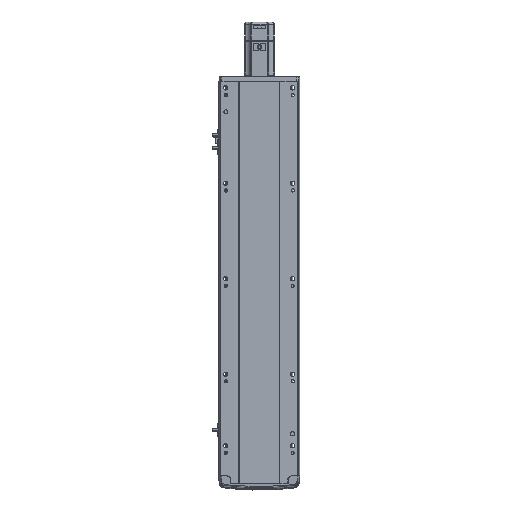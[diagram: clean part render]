
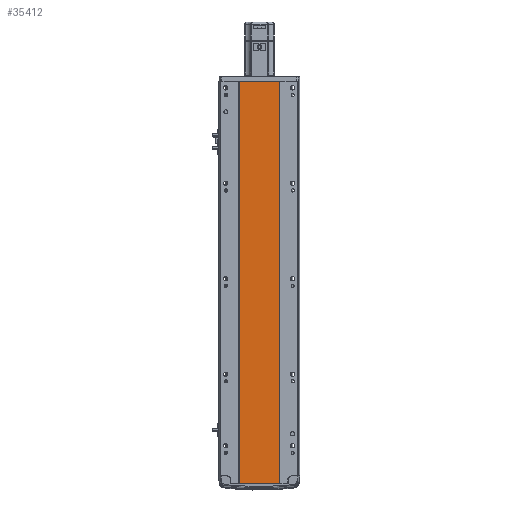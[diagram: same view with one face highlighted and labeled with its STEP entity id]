
A CAD part, front view. The second image highlights one B-rep face of the part: STEP entity #35412.
In plain terms, the highlighted planar face has unit normal (0, -1, 0).
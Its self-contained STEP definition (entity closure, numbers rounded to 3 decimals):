
#614 = VERTEX_POINT ( 'NONE', #5464 ) ;
#3527 = VECTOR ( 'NONE', #21907, 1000. ) ;
#4710 = VERTEX_POINT ( 'NONE', #6441 ) ;
#5464 = CARTESIAN_POINT ( 'NONE',  ( 41.793, 0.998, 843.5 ) ) ;
#5761 = EDGE_CURVE ( 'NONE', #45445, #614, #32788, .T. ) ;
#6441 = CARTESIAN_POINT ( 'NONE',  ( 41.793, 0.998, 0. ) ) ;
#6871 = EDGE_CURVE ( 'NONE', #17481, #4710, #18458, .T. ) ;
#8764 = CARTESIAN_POINT ( 'NONE',  ( -41.791, 1., 843.5 ) ) ;
#9815 = FACE_OUTER_BOUND ( 'NONE', #28199, .T. ) ;
#9979 = VECTOR ( 'NONE', #44667, 1000. ) ;
#10133 = DIRECTION ( 'NONE',  ( 0., 1., 0. ) ) ;
#10438 = VECTOR ( 'NONE', #44020, 1000. ) ;
#11974 = CARTESIAN_POINT ( 'NONE',  ( 0., 0.999, 843.5 ) ) ;
#12742 = CARTESIAN_POINT ( 'NONE',  ( 41.793, 0.998, 843.5 ) ) ;
#13618 = DIRECTION ( 'NONE',  ( -1., 0., 0. ) ) ;
#13957 = CARTESIAN_POINT ( 'NONE',  ( 0., 0.999, 843.5 ) ) ;
#14418 = AXIS2_PLACEMENT_3D ( 'NONE', #13957, #10133, #13618 ) ;
#14966 = VECTOR ( 'NONE', #38335, 1000. ) ;
#17481 = VERTEX_POINT ( 'NONE', #20759 ) ;
#18458 = LINE ( 'NONE', #18895, #3527 ) ;
#18875 = LINE ( 'NONE', #12742, #9979 ) ;
#18895 = CARTESIAN_POINT ( 'NONE',  ( 0., 0.999, 0. ) ) ;
#20759 = CARTESIAN_POINT ( 'NONE',  ( -41.791, 1., 0. ) ) ;
#21907 = DIRECTION ( 'NONE',  ( 1., 0., 0. ) ) ;
#22157 = ORIENTED_EDGE ( 'NONE', *, *, #25744, .T. ) ;
#25744 = EDGE_CURVE ( 'NONE', #45445, #17481, #31249, .T. ) ;
#28199 = EDGE_LOOP ( 'NONE', ( #33228, #48347, #43889, #22157 ) ) ;
#31249 = LINE ( 'NONE', #44191, #10438 ) ;
#32788 = LINE ( 'NONE', #11974, #14966 ) ;
#33228 = ORIENTED_EDGE ( 'NONE', *, *, #6871, .T. ) ;
#35412 = ADVANCED_FACE ( 'NONE', ( #9815 ), #40831, .F. ) ;
#37411 = EDGE_CURVE ( 'NONE', #614, #4710, #18875, .T. ) ;
#38335 = DIRECTION ( 'NONE',  ( 1., 0., 0. ) ) ;
#40831 = PLANE ( 'NONE',  #14418 ) ;
#43889 = ORIENTED_EDGE ( 'NONE', *, *, #5761, .F. ) ;
#44020 = DIRECTION ( 'NONE',  ( 0., 0., -1. ) ) ;
#44191 = CARTESIAN_POINT ( 'NONE',  ( -41.791, 1., 843.5 ) ) ;
#44667 = DIRECTION ( 'NONE',  ( 0., 0., -1. ) ) ;
#45445 = VERTEX_POINT ( 'NONE', #8764 ) ;
#48347 = ORIENTED_EDGE ( 'NONE', *, *, #37411, .F. ) ;
